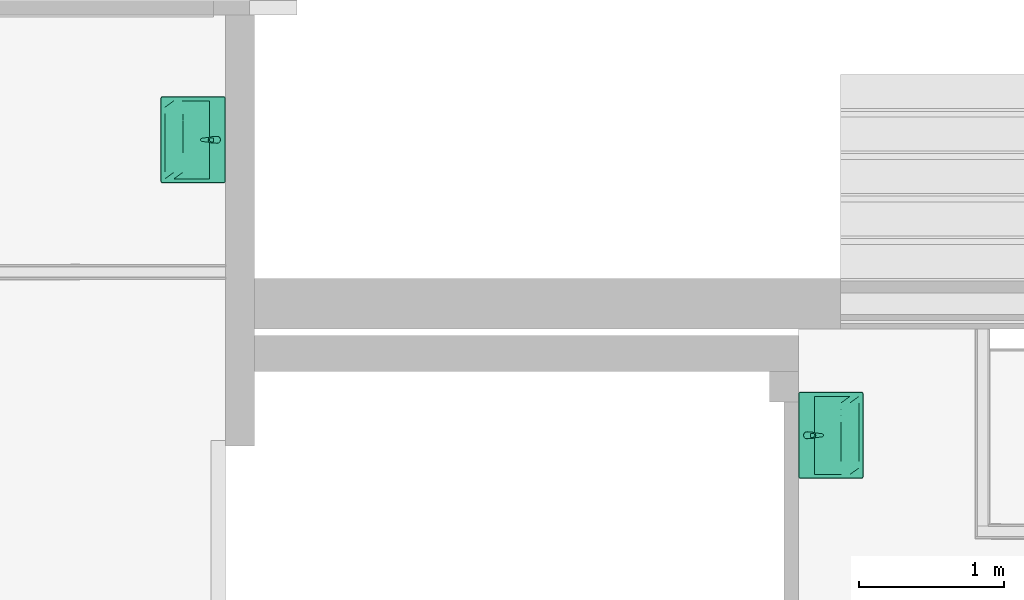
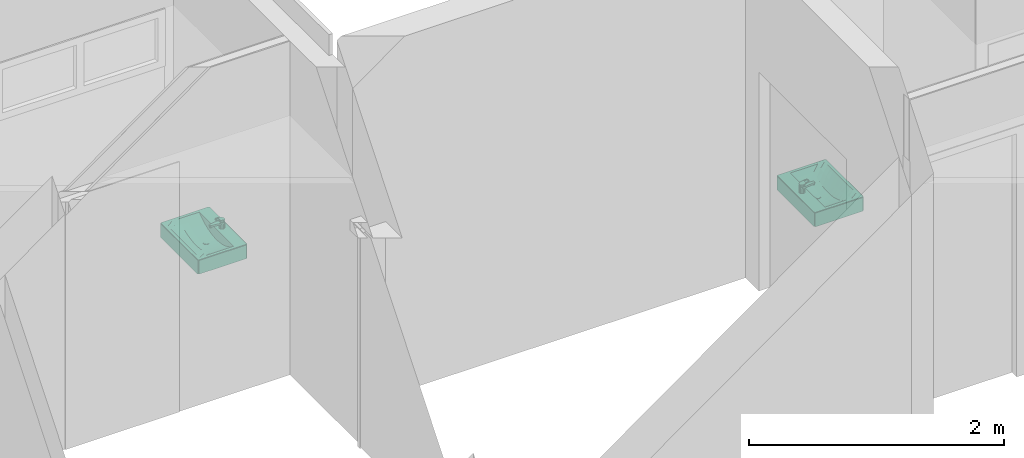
# One storey, part 81 of 99: 2 flow controllers.
"""IFC2X3 building model written with IfcOpenShell, lengths in millimetres."""

import ifcopenshell
import ifcopenshell.guid

model = None  # the IFC model being written
_history = None  # IfcOwnerHistory: only IFC2X3 demands one
_inside = {}  # id of a spatial element -> (the spatial element, [elements in it])
_under = {}  # id of a project, library or spatial element -> (it, [spatial elements below it])
_declared = {}  # id of a project -> (the project, [libraries it declares])
_typed = {}  # id of a type object -> (the type object, [elements of that type])
_made_of = {}  # id of a material, layer set ... -> (it, [elements and type objects made of it])


def new_model(schema):
    """Start an empty IFC model of exactly this schema.

    Asked for "IFC4X3", IfcOpenShell would pick the latest addendum, in which some entities
    have other attributes; the version numbers below select the first issue.
    IFC2X3 requires an IfcOwnerHistory on every rooted entity: one is made here for all.
    """
    global model, _history
    if schema == "IFC4X3":
        model = ifcopenshell.file(schema_version=(4, 3, 0, 0))
    else:
        model = ifcopenshell.file(schema=schema)
    _inside.clear()
    _under.clear()
    _declared.clear()
    _typed.clear()
    _made_of.clear()
    _history = None
    if model.schema == "IFC2X3":
        org = make("IfcOrganization", Name="unknown")
        user = make(
            "IfcPersonAndOrganization",
            ThePerson=make("IfcPerson", FamilyName="unknown"),
            TheOrganization=org,
        )
        app = make(
            "IfcApplication",
            ApplicationDeveloper=org,
            Version="unknown",
            ApplicationFullName="unknown",
            ApplicationIdentifier="unknown",
        )
        _history = make(
            "IfcOwnerHistory",
            OwningUser=user,
            OwningApplication=app,
            ChangeAction="ADDED",
            CreationDate=0,
        )
    return model


def make(cls, **values):
    """One entity of the class cls with the attributes given. An attribute that is None is left unset."""
    return model.create_entity(
        cls, **{name: value for name, value in values.items() if value is not None}
    )


def entity(cls, *values):
    """Any entity or typed value of the class cls, its attributes in the order of the schema. None: left unset."""
    e = model.create_entity(cls)
    for i, value in enumerate(values):
        if value is not None:
            e[i] = value
    return e


def rooted(cls, **values):
    """An entity with a GlobalId (a new one), such as an element, a storey or a relation."""
    return make(cls, GlobalId=ifcopenshell.guid.new(), OwnerHistory=_history, **values)


def si_unit(unit_type, name, prefix=None):
    """IfcSIUnit, for example si_unit("LENGTHUNIT", "METRE", prefix="MILLI")."""
    return make("IfcSIUnit", UnitType=unit_type, Prefix=prefix, Name=name)


def converted_unit(unit_type, name, factor, base, dimensions=None, offset=None):
    """IfcConversionBasedUnit, such as the inch: factor (a typed value) times the base unit."""
    return make(
        "IfcConversionBasedUnit"
        if offset is None
        else "IfcConversionBasedUnitWithOffset",
        ConversionOffset=offset,
        Dimensions=None
        if dimensions is None
        else entity("IfcDimensionalExponents", *dimensions),
        UnitType=unit_type,
        Name=name,
        ConversionFactor=make(
            "IfcMeasureWithUnit", ValueComponent=factor, UnitComponent=base
        ),
    )


def derived_unit(unit_type, elements):
    """IfcDerivedUnit: a product of units, each with its exponent."""
    return make(
        "IfcDerivedUnit",
        Elements=[
            make("IfcDerivedUnitElement", Unit=unit, Exponent=power)
            for unit, power in elements
        ],
        UnitType=unit_type,
    )


def money_unit(currency):
    """IfcMonetaryUnit."""
    return make("IfcMonetaryUnit", Currency=currency)


def assignment(units):
    """IfcUnitAssignment: the units of a project."""
    return None if units is None else make("IfcUnitAssignment", Units=units)


def point(xyz):
    """IfcCartesianPoint."""
    return None if xyz is None else make("IfcCartesianPoint", Coordinates=xyz)


def direction(xyz):
    """IfcDirection."""
    return None if xyz is None else make("IfcDirection", DirectionRatios=xyz)


def frame(location, z_axis=None, x_axis=None):
    """IfcAxis2Placement3D, a coordinate frame: its origin and axes. An axis left out is left unset."""
    return make(
        "IfcAxis2Placement3D",
        Location=point(location),
        Axis=direction(z_axis),
        RefDirection=direction(x_axis),
    )


def origin_with_axes():
    """The frame at (0, 0, 0) with the z axis (0, 0, 1) and the x axis (1, 0, 0) written out."""
    return frame((0.0, 0.0, 0.0), z_axis=(0.0, 0.0, 1.0), x_axis=(1.0, 0.0, 0.0))


def place(relative_to, where):
    """IfcLocalPlacement: puts the frame where relative to a parent placement (None: the world)."""
    return make(
        "IfcLocalPlacement", PlacementRelTo=relative_to, RelativePlacement=where
    )


def context(
    kind, dimensions, precision=None, world=None, true_north=None, identifier=None
):
    """IfcGeometricRepresentationContext, for example the 3D "Model" context."""
    return make(
        "IfcGeometricRepresentationContext",
        ContextIdentifier=identifier,
        ContextType=kind,
        CoordinateSpaceDimension=dimensions,
        Precision=precision,
        WorldCoordinateSystem=world,
        TrueNorth=true_north,
    )


def subcontext(parent, identifier, kind, view, scale=None):
    """IfcGeometricRepresentationSubContext, for example "Body" below "Model"."""
    return make(
        "IfcGeometricRepresentationSubContext",
        ContextIdentifier=identifier,
        ContextType=kind,
        ParentContext=parent,
        TargetScale=scale,
        TargetView=view,
    )


def project(units=None, contexts=None):
    """IfcProject with its units and contexts."""
    return rooted(
        "IfcProject",
        Name="project",
        RepresentationContexts=contexts,
        UnitsInContext=assignment(units),
    )


def spatial(cls, under=None, at=None, **own):
    """A site, building, storey or space (cls), placed at a placement, below another one or the project."""
    s = rooted(cls, ObjectPlacement=at, **own)
    if under is not None:
        _under.setdefault(under.id(), (under, []))[1].append(s)
    return s


def faces_of(points, faces, orient=None, outer=None):
    """IfcFace entities. A face is a list of loops; a loop is a list of indices into points, from 0.

    orient and outer hold one flag for each loop. By default every Orientation is true, the
    first loop of a face is its IfcFaceOuterBound and the others are IfcFaceBound.
    """
    made = []
    for i, loops in enumerate(faces):
        bounds = []
        for j, loop in enumerate(loops):
            is_outer = j == 0 if outer is None else outer[i][j]
            bounds.append(
                make(
                    "IfcFaceOuterBound" if is_outer else "IfcFaceBound",
                    Bound=make("IfcPolyLoop", Polygon=[points[k] for k in loop]),
                    Orientation=True if orient is None else orient[i][j],
                )
            )
        made.append(make("IfcFace", Bounds=bounds))
    return made


def open_shell(faces, orient=None, outer=None):
    """The faces of one IfcOpenShell. surface_model builds it on its shared points."""
    return ("IfcOpenShell", faces, orient, outer)


def faceted_brep(points, faces, orient=None, outer=None, voids=None):
    """IfcFacetedBrep: a solid bounded by flat faces; with voids (closed shells), ...WithVoids."""
    shared = [point(p) for p in points]
    hull = make("IfcClosedShell", CfsFaces=faces_of(shared, faces, orient, outer))
    if voids is None:
        return make("IfcFacetedBrep", Outer=hull)
    return make(
        "IfcFacetedBrepWithVoids",
        Outer=hull,
        Voids=[
            make(cls, CfsFaces=faces_of(shared, fs, o, b)) for cls, fs, o, b in voids
        ],
    )


def surface_model(cls, points, shells):
    """IfcFaceBasedSurfaceModel or IfcShellBasedSurfaceModel (cls): surfaces that need not close."""
    shared = [point(p) for p in points]
    made = [make(c, CfsFaces=faces_of(shared, fs, o, b)) for c, fs, o, b in shells]
    if cls == "IfcFaceBasedSurfaceModel":
        return make(cls, FbsmFaces=made)
    return make(cls, SbsmBoundary=made)


def shape(context_of_items, identifier, shape_type, items):
    """IfcShapeRepresentation: the items that make up one representation, for example the "Body"."""
    return make(
        "IfcShapeRepresentation",
        ContextOfItems=context_of_items,
        RepresentationIdentifier=identifier,
        RepresentationType=shape_type,
        Items=items,
    )


def source(mapping_origin, context_of_items, identifier, shape_type, items):
    """IfcRepresentationMap: a shape defined once, which mapped items show again and again."""
    return make(
        "IfcRepresentationMap",
        MappingOrigin=mapping_origin,
        MappedRepresentation=shape(context_of_items, identifier, shape_type, items),
    )


def transform(
    local_origin,
    x_axis=None,
    y_axis=None,
    z_axis=None,
    scale=None,
    scale2=None,
    scale3=None,
    uniform=True,
):
    """IfcCartesianTransformationOperator3D, or its non-uniform kind. x_axis, y_axis, z_axis: its Axis1, 2, 3."""
    if uniform:
        return make(
            "IfcCartesianTransformationOperator3D",
            Axis1=direction(x_axis),
            Axis2=direction(y_axis),
            LocalOrigin=point(local_origin),
            Scale=scale,
            Axis3=direction(z_axis),
        )
    return make(
        "IfcCartesianTransformationOperator3DnonUniform",
        Axis1=direction(x_axis),
        Axis2=direction(y_axis),
        LocalOrigin=point(local_origin),
        Scale=scale,
        Axis3=direction(z_axis),
        Scale2=scale2,
        Scale3=scale3,
    )


def mapped(mapping_source, mapping_target):
    """IfcMappedItem: shows the shape of a source again, moved by a transform."""
    return make(
        "IfcMappedItem", MappingSource=mapping_source, MappingTarget=mapping_target
    )


def made_of(thing, what):
    """Note that an element or type object is made of a material, layer set ...; save() writes the relation."""
    if what is not None:
        _made_of.setdefault(what.id(), (what, []))[1].append(thing)
    return thing


def type_object(cls, material=None, **own):
    """A type object (cls), such as IfcWallType, which elements share."""
    return made_of(rooted(cls, **own), material)


def type_shapes(of_type, sources):
    """Give a type object the sources (RepresentationMaps) that its elements show as mapped items."""
    of_type.RepresentationMaps = sources


def element(
    cls,
    number,
    at=None,
    inside=None,
    cuts=None,
    type_object=None,
    material=None,
    context=None,
    identifier="Body",
    shape_type=None,
    held_by="IfcProductDefinitionShape",
    body=None,
    shapes=None,
    **own,
):
    """One element of the class cls, such as IfcWall. Its Tag is "e" and its number.

    at: its placement. inside: the storey or other place that contains it. cuts: it is an
    opening in that element (IfcRelVoidsElement). A single representation is given by context,
    identifier, shape_type and body (its items); several are given by shapes. held_by: the class
    of the entity that holds the representations. save() writes the other relations.
    """
    e = rooted(cls, Tag="e%d" % number, ObjectPlacement=at, **own)
    if body is not None:
        shapes = [shape(context, identifier, shape_type, body)]
    if shapes is not None:
        e.Representation = make(held_by, Representations=shapes)
    if inside is not None:
        _inside.setdefault(inside.id(), (inside, []))[1].append(e)
    if cuts is not None:
        rooted(
            "IfcRelVoidsElement", RelatingBuildingElement=cuts, RelatedOpeningElement=e
        )
    if type_object is not None:
        _typed.setdefault(type_object.id(), (type_object, []))[1].append(e)
    return made_of(e, material)


def aggregate(whole, parts):
    """IfcRelAggregates: a whole, such as a stair, and the parts it consists of."""
    return rooted("IfcRelAggregates", RelatingObject=whole, RelatedObjects=parts)


def save(model, path):
    """Write the relations noted so far, then the file.

    IfcRelAggregates (storeys below a building ...), IfcRelContainedInSpatialStructure (elements
    in a storey), IfcRelDefinesByType, IfcRelAssociatesMaterial and IfcRelDeclares: one each for
    every whole, place, type object, material and project.
    """
    for whole, parts in _under.values():
        aggregate(whole, parts)
    for where, things in _inside.values():
        rooted(
            "IfcRelContainedInSpatialStructure",
            RelatedElements=things,
            RelatingStructure=where,
        )
    for kind, things in _typed.values():
        rooted("IfcRelDefinesByType", RelatedObjects=things, RelatingType=kind)
    for what, things in _made_of.values():
        rooted("IfcRelAssociatesMaterial", RelatedObjects=things, RelatingMaterial=what)
    for by, libraries in _declared.values():
        rooted("IfcRelDeclares", RelatingContext=by, RelatedDefinitions=libraries)
    model.write(path)


model = new_model("IFC2X3")

# Units and contexts
model_context = context("Model", 3, precision=0.01, world=origin_with_axes(), true_north=direction((0.0, 1.0)))
body_context = subcontext(model_context, "Body", "Model", "MODEL_VIEW")
ifc_project = project(units=[si_unit("LENGTHUNIT", "METRE", prefix="MILLI"), si_unit("AREAUNIT", "SQUARE_METRE"), si_unit("VOLUMEUNIT", "CUBIC_METRE"), converted_unit("PLANEANGLEUNIT", "DEGREE", entity("IfcPlaneAngleMeasure", 0.0174532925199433), si_unit("PLANEANGLEUNIT", "RADIAN"), dimensions=[0, 0, 0, 0, 0, 0, 0]), money_unit("EUR"), converted_unit("TIMEUNIT", "Year", entity("IfcTimeMeasure", 31557600.0), si_unit("TIMEUNIT", "SECOND"), dimensions=[0, 0, 1, 0, 0, 0, 0]), si_unit("MASSUNIT", "GRAM", prefix="KILO"), si_unit("THERMODYNAMICTEMPERATUREUNIT", "DEGREE_CELSIUS"), si_unit("LUMINOUSINTENSITYUNIT", "LUMEN"), si_unit("ENERGYUNIT", "JOULE", prefix="MEGA"), derived_unit("THERMALCONDUCTANCEUNIT", [(si_unit("POWERUNIT", "WATT"), 1), (si_unit("LENGTHUNIT", "METRE"), -1), (si_unit("THERMODYNAMICTEMPERATUREUNIT", "KELVIN"), -1)]), derived_unit("SPECIFICHEATCAPACITYUNIT", [(si_unit("ENERGYUNIT", "JOULE"), 1), (si_unit("MASSUNIT", "GRAM", prefix="KILO"), -1), (si_unit("THERMODYNAMICTEMPERATUREUNIT", "KELVIN"), -1)]), derived_unit("MASSDENSITYUNIT", [(si_unit("MASSUNIT", "GRAM", prefix="KILO"), 1), (si_unit("VOLUMEUNIT", "CUBIC_METRE"), -1)])], contexts=[model_context])

# Site, building, storey
site_placement = place(None, origin_with_axes())
site = spatial("IfcSite", under=ifc_project, at=site_placement, Name="Site", CompositionType="ELEMENT")
building_placement = place(site_placement, origin_with_axes())
building = spatial("IfcBuilding", under=site, at=building_placement, Name="Naam gebouw", CompositionType="ELEMENT")
storey_placement = place(building_placement, frame((0.0, 0.0, 7650.0), z_axis=(0.0, 0.0, 1.0), x_axis=(1.0, 0.0, 0.0)))
storey = spatial("IfcBuildingStorey", under=building, at=storey_placement, Name="2e verdieping N", CompositionType="ELEMENT", Elevation=7650.0)

# Flow controllers
valve_type = type_object("IfcValveType", Name="Wasbak 27", PredefinedType="NOTDEFINED")
shared_shape = source(origin_with_axes(), body_context, "Body", "SurfaceModel", [
    faceted_brep([(-285.0, -450.0, 865.0), (-292.5, -447.9903810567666, 865.0), (-297.9903810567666, -442.5, 865.0), (-300.0, -435.0, 865.0), (-300.0, -15.00000000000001, 865.0), (-297.9903810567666, -7.500000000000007, 865.0), (-292.5, -2.009618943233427, 865.0), (-285.0, 0.0, 865.0), (285.0, 0.0, 865.0), (292.5, -2.009618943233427, 865.0), (297.9903810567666, -7.500000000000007, 865.0), (300.0, -15.00000000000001, 865.0), (300.0, -435.0, 865.0), (297.9903810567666, -442.5, 865.0), (292.5, -447.9903810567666, 865.0), (285.0, -450.0, 865.0), (270.0, -420.0000000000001, 865.0), (270.0, -110.0, 865.0), (-270.0, -110.0, 865.0), (-270.0, -420.0000000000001, 865.0), (-284.9999995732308, -450.0000003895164, 995.0), (-292.499999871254, -447.9903813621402, 995.0), (-297.990381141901, -442.5000000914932, 995.0), (-300.0000001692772, -434.99999979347, 995.0), (-300.0000001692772, -14.99999986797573, 995.0), (-297.990381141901, -7.499999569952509, 995.0), (-292.499999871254, -2.009619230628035, 995.0), (-284.9999995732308, -2.032518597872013e-07, 995.0), (284.9999997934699, -2.032518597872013e-07, 995.0), (292.5000000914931, -2.009619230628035, 995.0), (297.9903813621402, -7.499999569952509, 995.0), (300.0000003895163, -14.99999986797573, 995.0), (300.0000003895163, -434.99999979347, 995.0), (297.9903813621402, -442.5000000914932, 995.0), (292.5000000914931, -447.9903813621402, 995.0), (284.9999997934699, -450.0000003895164, 995.0), (270.0, -110.0, 999.9999996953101), (270.0, -420.0000000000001, 999.9999996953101), (-270.0, -110.0, 999.9999996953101), (-270.0, -420.0000000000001, 999.9999996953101), (-284.9775698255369, -449.8296295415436, 996.2940952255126), (-292.411809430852, -447.8376310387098, 996.2940952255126), (-297.8376308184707, -442.4118096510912, 996.2940952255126), (-299.8296293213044, -434.9775700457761, 996.2940952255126), (-299.8296293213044, -15.02242961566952, 996.2940952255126), (-297.8376308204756, -7.588190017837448, 996.2940952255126), (-292.4118094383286, -2.16236955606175, 996.2940952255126), (-284.9775698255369, -0.1703710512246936, 996.2940952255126), (284.9775700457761, -0.1703710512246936, 996.2940952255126), (292.4118096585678, -2.16236955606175, 996.2940952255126), (297.8376310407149, -7.588190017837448, 996.2940952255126), (299.8296295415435, -15.02242961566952, 996.2940952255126), (299.8296295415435, -434.9775700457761, 996.2940952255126), (297.8376310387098, -442.4118096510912, 996.2940952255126), (292.4118096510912, -447.8376310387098, 996.2940952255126), (284.9775700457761, -449.8296295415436, 996.2940952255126), (284.3417376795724, -4.999997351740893, 999.9999996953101), (-284.3417374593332, -4.999997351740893, 999.9999996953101), (-289.9118111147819, -6.492494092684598, 999.9999996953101), (-293.507506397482, -10.08818876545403, 999.9999996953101), (-295.0000030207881, -15.6582619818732, 999.9999996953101), (-295.0000030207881, -434.3417376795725, 999.9999996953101), (-293.5075063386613, -439.9118111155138, 999.9999996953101), (-289.9118108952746, -443.5075065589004, 999.9999996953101), (-284.3417374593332, -445.0000032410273, 999.9999996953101), (284.3417376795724, -445.0000032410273, 999.9999996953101), (289.9118111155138, -443.5075065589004, 999.9999996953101), (293.5075065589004, -439.9118111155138, 999.9999996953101), (295.0000032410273, -434.3417376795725, 999.9999996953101), (295.0000032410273, -15.6582619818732, 999.9999996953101), (293.5075066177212, -10.08818876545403, 999.9999996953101), (289.911811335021, -6.492494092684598, 999.9999996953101), (-284.8071989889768, -448.5355345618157, 998.5355339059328), (-291.7419365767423, -446.6773772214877, 998.5355339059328), (-296.6773770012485, -441.7419367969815, 998.5355339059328), (-298.5355343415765, -434.807199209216, 998.5355339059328), (-298.5355343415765, -15.1928004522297, 998.5355339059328), (-296.677377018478, -8.258062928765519, 998.5355339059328), (-291.7419366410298, -3.322623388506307, 998.5355339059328), (-284.8071989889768, -1.464466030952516, 998.5355339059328), (284.8071992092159, -1.464466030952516, 998.5355339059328), (291.7419368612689, -3.322623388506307, 998.5355339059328), (296.6773772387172, -8.258062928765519, 998.5355339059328), (298.5355345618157, -15.1928004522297, 998.5355339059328), (298.5355345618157, -434.807199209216, 998.5355339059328), (296.6773772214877, -441.7419367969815, 998.5355339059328), (291.7419367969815, -446.6773772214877, 998.5355339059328), (284.8071992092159, -448.5355345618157, 998.5355339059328), (284.5121082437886, -3.705904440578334, 999.8296291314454), (-284.5121080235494, -3.705904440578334, 999.8296291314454), (-290.581682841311, -5.332242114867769, 999.8296291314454), (-294.667758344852, -9.418316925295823, 999.8296291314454), (-296.2940959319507, -15.487891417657, 999.8296291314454), (-296.2940959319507, -434.5121082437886, 999.8296291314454), (-294.6677583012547, -440.5816828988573, 999.8296291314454), (-290.5816826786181, -444.6677585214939, 999.8296291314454), (-284.5121080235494, -446.2940961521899, 999.8296291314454), (284.5121082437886, -446.2940961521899, 999.8296291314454), (290.5816828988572, -444.6677585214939, 999.8296291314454), (294.6677585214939, -440.5816828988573, 999.8296291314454), (296.2940961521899, -434.5121082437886, 999.8296291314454), (296.2940961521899, -15.487891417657, 999.8296291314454), (294.6677585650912, -9.418316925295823, 999.8296291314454), (290.5816830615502, -5.332242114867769, 999.8296291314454)], [[[0, 1, 2, 3, 4, 5, 6, 7, 8, 9, 10, 11, 12, 13, 14, 15], [16, 17, 18, 19]], [[1, 0, 20, 21]], [[2, 1, 21, 22]], [[3, 2, 22, 23]], [[4, 3, 23, 24]], [[5, 4, 24, 25]], [[6, 5, 25, 26]], [[7, 6, 26, 27]], [[8, 7, 27, 28]], [[9, 8, 28, 29]], [[10, 9, 29, 30]], [[11, 10, 30, 31]], [[12, 11, 31, 32]], [[13, 12, 32, 33]], [[14, 13, 33, 34]], [[15, 14, 34, 35]], [[0, 15, 35, 20]], [[36, 17, 16, 37]], [[38, 18, 17, 36]], [[39, 19, 18, 38]], [[37, 16, 19, 39]], [[21, 20, 40, 41]], [[22, 21, 41, 42]], [[23, 22, 42, 43]], [[24, 23, 43, 44]], [[25, 24, 44, 45]], [[26, 25, 45, 46]], [[27, 26, 46, 47]], [[28, 27, 47, 48]], [[29, 28, 48, 49]], [[30, 29, 49, 50]], [[31, 30, 50, 51]], [[32, 31, 51, 52]], [[33, 32, 52, 53]], [[34, 33, 53, 54]], [[35, 34, 54, 55]], [[20, 35, 55, 40]], [[56, 57, 58, 59, 60, 61, 62, 63, 64, 65, 66, 67, 68, 69, 70, 71], [37, 39, 38, 36]], [[41, 40, 72, 73]], [[42, 41, 73, 74]], [[43, 42, 74, 75]], [[44, 43, 75, 76]], [[45, 44, 76, 77]], [[46, 45, 77, 78]], [[47, 46, 78, 79]], [[48, 47, 79, 80]], [[49, 48, 80, 81]], [[50, 49, 81, 82]], [[51, 50, 82, 83]], [[52, 51, 83, 84]], [[53, 52, 84, 85]], [[54, 53, 85, 86]], [[55, 54, 86, 87]], [[40, 55, 87, 72]], [[88, 89, 57, 56]], [[89, 90, 58, 57]], [[90, 91, 59, 58]], [[91, 92, 60, 59]], [[92, 93, 61, 60]], [[93, 94, 62, 61]], [[94, 95, 63, 62]], [[95, 96, 64, 63]], [[96, 97, 65, 64]], [[97, 98, 66, 65]], [[98, 99, 67, 66]], [[99, 100, 68, 67]], [[100, 101, 69, 68]], [[101, 102, 70, 69]], [[102, 103, 71, 70]], [[103, 88, 56, 71]], [[73, 72, 96, 95]], [[74, 73, 95, 94]], [[75, 74, 94, 93]], [[76, 75, 93, 92]], [[77, 76, 92, 91]], [[78, 77, 91, 90]], [[79, 78, 90, 89]], [[80, 79, 89, 88]], [[81, 80, 88, 103]], [[82, 81, 103, 102]], [[83, 82, 102, 101]], [[84, 83, 101, 100]], [[85, 84, 100, 99]], [[86, 85, 99, 98]], [[87, 86, 98, 97]], [[72, 87, 97, 96]]]),
    faceted_brep([(270.0, -420.0000000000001, 865.0), (-270.0, -420.0000000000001, 865.0), (-270.0, -110.0, 865.0), (270.0, -110.0, 865.0), (-12.49999999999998, -224.368635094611, 865.0), (0.0, -227.718, 865.0), (12.50000000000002, -224.368635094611, 865.0), (21.65063509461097, -215.218, 865.0), (25.0, -202.718, 865.0), (21.65063509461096, -190.218, 865.0), (12.49999999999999, -181.067364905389, 865.0), (0.0, -177.718, 865.0), (-12.50000000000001, -181.067364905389, 865.0), (-21.65063509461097, -190.218, 865.0), (-25.0, -202.718, 865.0), (-21.65063509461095, -215.218, 865.0), (135.0, -420.0000000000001, 1000.0), (90.0, -420.0000000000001, 1000.0), (44.99999999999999, -420.0000000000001, 1000.0), (0.0, -420.0000000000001, 1000.0), (-45.00000000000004, -420.0000000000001, 1000.0), (-90.00000000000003, -420.0000000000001, 1000.0), (-135.0, -420.0000000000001, 1000.0), (-180.0000000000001, -420.0000000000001, 1000.0), (-225.0, -420.0000000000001, 1000.0), (-270.0, -420.0000000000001, 1000.0), (270.0, -420.0000000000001, 1000.0), (225.0, -420.0000000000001, 1000.0), (180.0, -420.0000000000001, 1000.0), (-270.0, -234.0, 1000.0), (-270.0, -172.0, 1000.0), (-270.0, -110.0, 1000.0), (-270.0, -358.0000000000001, 1000.0), (-270.0, -296.0000000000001, 999.9999999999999), (-135.0, -110.0, 922.6004593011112), (-90.00000000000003, -110.0, 909.8887668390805), (-45.00000000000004, -110.0, 902.449942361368), (0.0, -110.0, 900.0), (44.99999999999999, -110.0, 902.449942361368), (90.0, -110.0, 909.8887668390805), (135.0, -110.0, 922.6004593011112), (180.0, -110.0, 941.1231796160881), (225.0, -110.0, 966.3832810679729), (270.0, -110.0, 1000.0), (-225.0, -110.0, 966.3832810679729), (-180.0000000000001, -110.0, 941.1231796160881), (270.0, -296.0000000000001, 1000.0), (270.0, -358.0000000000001, 1000.0), (270.0, -172.0, 1000.0), (270.0, -234.0, 1000.0), (0.0, -227.718, 900.0), (-12.49999999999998, -224.368635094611, 900.6805395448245), (12.50000000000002, -224.368635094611, 900.6805395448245), (21.65063509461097, -215.218, 901.1787290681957), (25.0, -202.718, 901.3610790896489), (21.65063509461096, -190.218, 901.1787290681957), (12.49999999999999, -181.067364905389, 900.6805395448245), (0.0, -177.718, 900.0), (-12.50000000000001, -181.067364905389, 900.6805395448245), (-21.65063509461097, -190.218, 901.1787290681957), (-25.0, -202.718, 901.3610790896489), (-21.65063509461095, -215.218, 901.1787290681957), (90.0, -358.0000000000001, 959.6989661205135), (44.99999999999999, -358.0000000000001, 956.0213334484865), (0.0, -358.0000000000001, 954.7990813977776), (-45.00000000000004, -358.0000000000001, 956.0213334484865), (-90.00000000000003, -358.0000000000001, 959.6989661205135), (-135.0, -358.0000000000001, 965.8650987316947), (-180.0000000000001, -358.0000000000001, 974.5766150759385), (-225.0, -358.0000000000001, 985.9168845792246), (225.0, -358.0000000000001, 985.9168845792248), (180.0, -358.0000000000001, 974.5766150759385), (135.0, -358.0000000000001, 965.8650987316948), (-225.0, -234.0, 966.3832810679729), (-225.0, -172.0, 966.3832810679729), (-225.0, -296.0000000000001, 970.8433791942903), (-135.0, -172.0, 922.6004593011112), (-90.00000000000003, -172.0, 909.8887668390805), (-45.00000000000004, -172.0, 902.449942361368), (0.0, -172.0, 900.0), (44.99999999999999, -172.0, 902.449942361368), (90.0, -172.0, 909.8887668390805), (135.0, -172.0, 922.6004593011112), (180.0, -172.0, 941.1231796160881), (225.0, -172.0, 966.3832810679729), (-180.0000000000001, -172.0, 941.1231796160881), (225.0, -296.0000000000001, 970.8433791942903), (225.0, -234.0, 966.3832810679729), (-45.00000000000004, -234.0, 902.449942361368), (0.0, -234.0, 900.0), (44.99999999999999, -234.0, 902.449942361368), (-180.0000000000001, -234.0, 941.1231796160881), (-135.0, -234.0, 922.6004593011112), (-90.00000000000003, -234.0, 909.8887668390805), (90.0, -234.0, 909.8887668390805), (135.0, -234.0, 922.6004593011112), (180.0, -234.0, 941.1231796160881), (0.0, -296.0000000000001, 911.4604006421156), (44.99999999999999, -296.0000000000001, 913.6864730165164), (90.0, -296.0000000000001, 920.4312036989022), (-45.00000000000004, -296.0000000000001, 913.6864730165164), (-90.00000000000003, -296.0000000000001, 920.4312036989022), (-135.0, -296.0000000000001, 931.904485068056), (-180.0000000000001, -296.0000000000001, 948.4946543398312), (180.0, -296.0000000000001, 948.4946543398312), (135.0, -296.0000000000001, 931.904485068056)], [[[0, 1, 2, 3], [4, 5, 6, 7, 8, 9, 10, 11, 12, 13, 14, 15]], [[16, 17, 18, 19, 20, 21, 22, 23, 24, 25, 1, 0, 26, 27, 28]], [[29, 30, 31, 2, 1, 25, 32, 33]], [[34, 35, 36, 37, 38, 39, 40, 41, 42, 43, 3, 2, 31, 44, 45]], [[46, 47, 26, 0, 3, 43, 48, 49]], [[50, 5, 4, 51]], [[52, 6, 5, 50]], [[53, 7, 6, 52]], [[54, 8, 7, 53]], [[55, 9, 8, 54]], [[56, 10, 9, 55]], [[57, 11, 10, 56]], [[58, 12, 11, 57]], [[59, 13, 12, 58]], [[60, 14, 13, 59]], [[61, 15, 14, 60]], [[51, 4, 15, 61]], [[16, 62, 17]], [[17, 63, 18]], [[18, 64, 19]], [[19, 65, 20]], [[20, 66, 21]], [[21, 67, 22]], [[22, 68, 23]], [[23, 69, 24]], [[24, 32, 25]], [[26, 70, 27]], [[27, 71, 28]], [[28, 72, 16]], [[29, 73, 74, 30]], [[30, 74, 44, 31]], [[69, 33, 32]], [[75, 29, 33]], [[76, 77, 35, 34]], [[77, 78, 36, 35]], [[78, 79, 37, 36]], [[79, 80, 38, 37]], [[80, 81, 39, 38]], [[81, 82, 40, 39]], [[82, 83, 41, 40]], [[83, 84, 42, 41]], [[84, 48, 43, 42]], [[74, 85, 45, 44]], [[85, 76, 34, 45]], [[47, 46, 86]], [[26, 47, 70]], [[87, 49, 48, 84]], [[46, 49, 87]], [[58, 57, 79, 78, 88, 89, 50, 51, 61, 60, 59]], [[56, 55, 54, 53, 52, 50, 89, 90, 80, 79, 57]], [[16, 72, 62]], [[17, 62, 63]], [[18, 63, 64]], [[19, 64, 65]], [[20, 65, 66]], [[21, 66, 67]], [[22, 67, 68]], [[23, 68, 69]], [[24, 69, 32]], [[27, 70, 71]], [[28, 71, 72]], [[75, 73, 29]], [[73, 91, 85, 74]], [[69, 75, 33]], [[92, 93, 77, 76]], [[93, 88, 78, 77]], [[90, 94, 81, 80]], [[94, 95, 82, 81]], [[95, 96, 83, 82]], [[96, 87, 84, 83]], [[91, 92, 76, 85]], [[46, 87, 86]], [[47, 86, 70]], [[97, 89, 88]], [[98, 90, 89]], [[72, 99, 62]], [[62, 98, 63]], [[63, 97, 64]], [[64, 100, 65]], [[65, 101, 66]], [[66, 102, 67]], [[67, 103, 68]], [[68, 75, 69]], [[70, 104, 71]], [[71, 105, 72]], [[103, 73, 75]], [[103, 91, 73]], [[101, 93, 92]], [[100, 88, 93]], [[99, 94, 90]], [[105, 95, 94]], [[104, 96, 95]], [[86, 87, 96]], [[102, 92, 91]], [[70, 86, 104]], [[98, 89, 97]], [[97, 88, 100]], [[99, 90, 98]], [[72, 105, 99]], [[62, 99, 98]], [[63, 98, 97]], [[64, 97, 100]], [[65, 100, 101]], [[66, 101, 102]], [[67, 102, 103]], [[68, 103, 75]], [[71, 104, 105]], [[102, 91, 103]], [[100, 93, 101]], [[101, 92, 102]], [[105, 94, 99]], [[104, 95, 105]], [[86, 96, 104]]]),
    faceted_brep([(-21.65063509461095, -215.218, 900.0), (-25.0, -202.718, 900.0), (-21.65063509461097, -190.218, 900.0), (-12.50000000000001, -181.067364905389, 900.0), (0.0, -177.718, 900.0), (12.49999999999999, -181.067364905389, 900.0), (21.65063509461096, -190.218, 900.0), (25.0, -202.718, 900.0), (21.65063509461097, -215.218, 900.0), (12.50000000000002, -224.368635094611, 900.0), (0.0, -227.718, 900.0), (-12.49999999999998, -224.368635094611, 900.0), (-21.65063509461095, -215.218, 905.0), (-25.0, -202.718, 905.0), (-21.65063509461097, -190.218, 905.0), (-12.50000000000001, -181.067364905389, 905.0), (0.0, -177.718, 905.0), (12.49999999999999, -181.067364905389, 905.0), (21.65063509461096, -190.218, 905.0), (25.0, -202.718, 905.0), (21.65063509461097, -215.218, 905.0), (12.50000000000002, -224.368635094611, 905.0), (0.0, -227.718, 905.0), (-12.49999999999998, -224.368635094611, 905.0)], [[[0, 1, 2, 3, 4, 5, 6, 7, 8, 9, 10, 11]], [[0, 12, 13, 1]], [[1, 13, 14, 2]], [[2, 14, 15, 3]], [[3, 15, 16, 4]], [[4, 16, 17, 5]], [[5, 17, 18, 6]], [[6, 18, 19, 7]], [[7, 19, 20, 8]], [[8, 20, 21, 9]], [[9, 21, 22, 10]], [[10, 22, 23, 11]], [[11, 23, 12, 0]], [[12, 23, 22, 21, 20, 19, 18, 17, 16, 15, 14, 13]]]),
    surface_model("IfcShellBasedSurfaceModel", [(0.0, -202.718, 907.0), (6.310952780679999, -191.7871091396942, 906.4975737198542), (0.0, -190.09609443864, 906.4975737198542), (10.93089086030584, -196.40704721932, 906.4975737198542), (12.5, -181.067364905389, 905.0), (0.0, -177.718, 905.0), (-6.310952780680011, -191.7871091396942, 906.4975737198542), (12.62190556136, -202.718, 906.4975737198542), (21.65063509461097, -190.218, 905.0), (-12.50000000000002, -181.067364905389, 905.0), (-10.93089086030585, -196.40704721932, 906.4975737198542), (10.93089086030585, -209.02895278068, 906.4975737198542), (25.0, -202.718, 905.0), (-21.65063509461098, -190.218, 905.0), (-12.62190556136, -202.718, 906.4975737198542), (6.310952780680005, -213.6488908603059, 906.4975737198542), (21.65063509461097, -215.218, 905.0), (-25.0, -202.718, 905.0), (-10.93089086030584, -209.02895278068, 906.4975737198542), (0.0, -215.33990556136, 906.4975737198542), (12.50000000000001, -224.368635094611, 905.0), (-21.65063509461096, -215.218, 905.0), (-6.310952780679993, -213.6488908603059, 906.4975737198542), (0.0, -227.718, 905.0), (-12.49999999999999, -224.368635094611, 905.0)], [open_shell([[[0, 1, 2]], [[0, 3, 1]], [[1, 4, 5, 2]], [[0, 2, 6]], [[0, 7, 3]], [[3, 8, 4, 1]], [[2, 5, 9, 6]], [[0, 6, 10]], [[0, 11, 7]], [[7, 12, 8, 3]], [[6, 9, 13, 10]], [[0, 10, 14]], [[0, 15, 11]], [[11, 16, 12, 7]], [[10, 13, 17, 14]], [[0, 14, 18]], [[0, 19, 15]], [[15, 20, 16, 11]], [[14, 17, 21, 18]], [[0, 18, 22]], [[0, 22, 19]], [[19, 23, 20, 15]], [[18, 21, 24, 22]], [[22, 24, 23, 19]]])]),
    faceted_brep([(-12.50000000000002, -38.34936490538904, 1000.0), (-10.587322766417, -41.66221905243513, 1076.507089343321), (0.0, -38.79807692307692, 1075.961538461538), (0.0, -34.99999999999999, 1000.0), (-21.65063509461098, -47.50000000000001, 1000.0), (-18.27355038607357, -49.44976076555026, 1077.99043062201), (-21.0, -60.00000000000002, 1080.0), (-18.10034137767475, -70.45023696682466, 1081.990521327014), (-10.41410590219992, -78.03776053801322, 1083.435763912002), (0.0, -80.80188679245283, 1083.962264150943), (10.41410590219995, -78.0377605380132, 1083.435763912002), (18.10034137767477, -70.45023696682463, 1081.990521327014), (21.0, -59.99999999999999, 1080.0), (18.27355038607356, -49.44976076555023, 1077.99043062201), (10.58732276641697, -41.66221905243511, 1076.507089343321), (12.5, -38.34936490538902, 1000.0), (21.65063509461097, -47.49999999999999, 1000.0), (25.0, -59.99999999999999, 1000.0), (21.65063509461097, -72.5, 1000.0), (12.50000000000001, -81.65063509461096, 1000.0), (0.0, -84.99999999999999, 1000.0), (-12.49999999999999, -81.65063509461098, 1000.0), (-21.65063509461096, -72.50000000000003, 1000.0), (-25.0, -60.00000000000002, 1000.0)], [[[0, 1, 2, 3]], [[4, 5, 1, 0]], [[1, 5, 6, 7, 8, 9, 10, 11, 12, 13, 14, 2]], [[3, 2, 14, 15]], [[0, 3, 15, 16, 17, 18, 19, 20, 21, 22, 23, 4]], [[23, 6, 5, 4]], [[22, 7, 6, 23]], [[21, 8, 7, 22]], [[20, 9, 8, 21]], [[19, 10, 9, 20]], [[18, 11, 10, 19]], [[17, 12, 11, 18]], [[16, 13, 12, 17]], [[15, 14, 13, 16]]]),
    faceted_brep([(-9.000000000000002, -163.0, 1035.0), (-9.000000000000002, -163.0, 1045.0), (-7.794228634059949, -158.5, 1045.0), (-7.794228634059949, -158.5, 1035.0), (-7.794228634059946, -167.5, 1035.0), (-7.794228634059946, -167.5, 1045.0), (-4.499999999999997, -170.79422863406, 1045.0), (0.0, -172.0, 1045.0), (4.500000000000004, -170.79422863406, 1045.0), (7.794228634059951, -167.5, 1045.0), (9.000000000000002, -163.0, 1045.0), (7.794228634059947, -158.5, 1045.0), (4.499999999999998, -155.2057713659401, 1045.0), (0.0, -154.0, 1045.0), (-4.500000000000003, -155.2057713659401, 1045.0), (-4.500000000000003, -155.2057713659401, 1035.0), (0.0, -154.0, 1035.0), (4.499999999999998, -155.2057713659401, 1035.0), (7.794228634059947, -158.5, 1035.0), (9.000000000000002, -163.0, 1035.0), (7.794228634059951, -167.5, 1035.0), (4.500000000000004, -170.79422863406, 1035.0), (0.0, -172.0, 1035.0), (-4.499999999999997, -170.79422863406, 1035.0)], [[[0, 1, 2, 3]], [[4, 5, 1, 0]], [[1, 5, 6, 7, 8, 9, 10, 11, 12, 13, 14, 2]], [[3, 2, 14, 15]], [[0, 3, 15, 16, 17, 18, 19, 20, 21, 22, 23, 4]], [[23, 6, 5, 4]], [[22, 7, 6, 23]], [[21, 8, 7, 22]], [[20, 9, 8, 21]], [[19, 10, 9, 20]], [[18, 11, 10, 19]], [[17, 12, 11, 18]], [[16, 13, 12, 17]], [[15, 14, 13, 16]]]),
    faceted_brep([(12.87171762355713, -39.74369617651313, 1060.0), (-1.019988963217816e-06, -36.00002168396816, 1060.0), (-12.87171934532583, -39.74369727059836, 1060.0), (-21.72780617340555, -49.80679647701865, 1060.0), (-23.80539974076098, -63.04990202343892, 1060.0), (-10.912, -164.3883, 1060.0), (-9.02891689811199, -169.2831346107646, 1060.0), (-5.093388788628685, -172.7496928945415, 1060.0), (-3.626798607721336e-05, -173.9999600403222, 1060.0), (5.093324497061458, -172.7497264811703, 1060.0), (9.02887546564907, -169.2831941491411, 1060.0), (10.9119908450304, -164.3883719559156, 1060.0), (23.8054, -63.04989999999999, 1060.0), (21.72780530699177, -49.80679463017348, 1060.0), (-11.00000000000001, -40.94744111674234, 1060.0), (0.0, -37.99999999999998, 1060.0), (11.0, -40.94744111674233, 1060.0), (19.05255888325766, -48.99999999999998, 1060.0), (22.00000000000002, -59.99999999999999, 1060.0), (19.05255888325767, -70.99999999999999, 1060.0), (11.00000000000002, -79.05255888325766, 1060.0), (0.0, -82.0, 1060.0), (-10.99999999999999, -79.05255888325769, 1060.0), (-19.05255888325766, -71.00000000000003, 1060.0), (-22.00000000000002, -60.0, 1060.0), (-19.05255888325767, -48.99999999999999, 1060.0), (12.87171762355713, -39.74369617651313, 1045.0), (-1.019988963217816e-06, -36.00002168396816, 1045.0), (-12.87171934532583, -39.74369727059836, 1045.0), (-21.72780617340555, -49.80679647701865, 1045.0), (-23.80539974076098, -63.04990202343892, 1045.0), (-10.912, -164.3883, 1045.0), (-9.02891689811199, -169.2831346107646, 1045.0), (-5.093388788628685, -172.7496928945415, 1045.0), (-3.626798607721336e-05, -173.9999600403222, 1045.0), (5.093324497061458, -172.7497264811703, 1045.0), (9.02887546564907, -169.2831941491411, 1045.0), (10.9119908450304, -164.3883719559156, 1045.0), (23.8054, -63.04989999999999, 1045.0), (21.72780530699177, -49.80679463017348, 1045.0), (0.0, -37.24999999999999, 1045.0), (-11.37500000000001, -40.297922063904, 1045.0), (11.375, -40.297922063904, 1045.0), (19.70207793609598, -48.62499999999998, 1045.0), (22.75000000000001, -59.99999999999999, 1045.0), (19.70207793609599, -71.375, 1045.0), (11.37500000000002, -79.70207793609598, 1045.0), (0.0, -82.75, 1045.0), (-11.37499999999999, -79.702077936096, 1045.0), (-19.70207793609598, -71.37500000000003, 1045.0), (-22.75000000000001, -60.0, 1045.0), (-19.70207793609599, -48.62499999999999, 1045.0)], [[[0, 1, 2, 3, 4, 5, 6, 7, 8, 9, 10, 11, 12, 13], [14, 15, 16, 17, 18, 19, 20, 21, 22, 23, 24, 25]], [[26, 27, 1, 0]], [[27, 28, 2, 1]], [[28, 29, 3, 2]], [[29, 30, 4, 3]], [[30, 31, 5, 4]], [[31, 32, 6, 5]], [[32, 33, 7, 6]], [[33, 34, 8, 7]], [[34, 35, 9, 8]], [[35, 36, 10, 9]], [[36, 37, 11, 10]], [[37, 38, 12, 11]], [[38, 39, 13, 12]], [[39, 26, 0, 13]], [[40, 15, 14, 41]], [[42, 16, 15, 40]], [[16, 42, 43, 17]], [[17, 43, 44, 18]], [[18, 44, 45, 19]], [[19, 45, 46, 20]], [[20, 46, 47, 21]], [[48, 22, 21, 47]], [[49, 23, 22, 48]], [[50, 24, 23, 49]], [[51, 25, 24, 50]], [[41, 14, 25, 51]], [[34, 33, 32, 31, 30, 29, 28, 27, 26, 39, 38, 37, 36, 35], [48, 47, 46, 45, 44, 43, 42, 40, 41, 51, 50, 49]]]),
    faceted_brep([(-23.893, -61.69256934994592, 1080.322394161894), (-23.893, -60.94412091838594, 1084.251748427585), (-21.29642141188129, -48.47683276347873, 1081.877026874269), (-21.29642141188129, -49.22528119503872, 1077.947672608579), (-20.94593649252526, -101.8367022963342, 1087.968895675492), (-20.94593649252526, -101.0882538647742, 1091.898249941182), (-17.66313911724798, -110.765918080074, 1093.74161455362), (-10.06143529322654, -117.7152976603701, 1095.065305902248), (0.0004426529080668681, -120.2371634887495, 1095.54566129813), (10.06221236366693, -117.7148809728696, 1095.0652265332), (17.66361794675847, -110.7651865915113, 1093.741475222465), (20.946, -101.0873864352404, 1091.898084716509), (23.89302047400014, -60.9438419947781, 1084.251695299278), (21.29629106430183, -48.47658415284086, 1081.876979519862), (12.4716815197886, -39.16035412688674, 1080.102459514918), (-0.0001423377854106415, -35.71958706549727, 1079.447075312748), (-12.47192457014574, -39.16049972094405, 1080.102487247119), (-14.0, -84.79235429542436, 1088.79426907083), (14.0, -84.79235429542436, 1088.79426907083), (14.0, -99.60798455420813, 1091.616293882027), (12.12435565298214, -106.4843545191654, 1092.926078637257), (7.000000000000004, -111.5182067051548, 1093.884907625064), (0.0, -113.3607244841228, 1094.235863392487), (-6.999999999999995, -111.5182067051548, 1093.884907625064), (-12.12435565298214, -106.4843545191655, 1092.926078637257), (-14.0, -99.60798455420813, 1091.616293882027), (-12.47192457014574, -39.90894815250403, 1076.173132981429), (-0.0001423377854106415, -36.46803549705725, 1075.517721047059), (12.4716815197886, -39.90880255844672, 1076.173105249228), (21.29629106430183, -49.22503258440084, 1077.947625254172), (23.89302047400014, -61.69229042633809, 1080.322341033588), (20.946, -101.8358348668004, 1087.968730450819), (17.66361794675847, -111.5136350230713, 1089.812120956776), (10.06221236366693, -118.4633294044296, 1091.13587226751), (0.0004426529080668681, -120.9856119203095, 1091.61630703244), (-10.06143529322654, -118.4637460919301, 1091.135951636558), (-17.66313911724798, -111.514366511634, 1089.81226028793), (-14.0, -85.54080272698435, 1084.86491480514), (-14.0, -100.3564329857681, 1087.686939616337), (-12.12435565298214, -107.2328029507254, 1088.996724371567), (-6.999999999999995, -112.2666551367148, 1089.955553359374), (0.0, -114.1091729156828, 1090.306509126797), (7.000000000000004, -112.2666551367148, 1089.955553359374), (12.12435565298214, -107.2328029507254, 1088.996724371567), (14.0, -100.3564329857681, 1087.686939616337), (14.0, -85.54080272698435, 1084.86491480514)], [[[0, 1, 2, 3]], [[4, 5, 1, 0]], [[1, 5, 6, 7, 8, 9, 10, 11, 12, 13, 14, 15, 16, 2], [17, 18, 19, 20, 21, 22, 23, 24, 25]], [[3, 2, 16, 26]], [[0, 3, 26, 27, 28, 29, 30, 31, 32, 33, 34, 35, 36, 4], [37, 38, 39, 40, 41, 42, 43, 44, 45]], [[36, 6, 5, 4]], [[35, 7, 6, 36]], [[34, 8, 7, 35]], [[33, 9, 8, 34]], [[32, 10, 9, 33]], [[31, 11, 10, 32]], [[30, 12, 11, 31]], [[29, 13, 12, 30]], [[28, 14, 13, 29]], [[27, 15, 14, 28]], [[26, 16, 15, 27]], [[45, 18, 17, 37]], [[44, 19, 18, 45]], [[43, 20, 19, 44]], [[42, 21, 20, 43]], [[41, 22, 21, 42]], [[40, 23, 22, 41]], [[39, 24, 23, 40]], [[38, 25, 24, 39]], [[37, 17, 25, 38]]]),
])
type_shapes(valve_type, [shared_shape])
for number, where, z_axis, x_axis, name in (
    (1, (20041.00000915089, 16960.33572987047, -150.0000000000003), (0.0, 0.0, 1.0), (0.0, -1.0, 0.0), "_Sanitair-x"),
    (2, (24002.99999999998, 14916.31808816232, 0.0), (0.0, 0.0, 1.0), (0.0, 1.0, 0.0), "_Sanitair-x"),
):
    element("IfcFlowController", number, at=place(storey_placement, frame(where, z_axis=z_axis, x_axis=x_axis)), inside=storey, type_object=valve_type, Name=name, ObjectType="Electric Distribution Board", context=body_context, shape_type="MappedRepresentation", body=[
        mapped(shared_shape, transform((0.0, 0.0, 0.0))),
    ])

save(model, "model.ifc")
